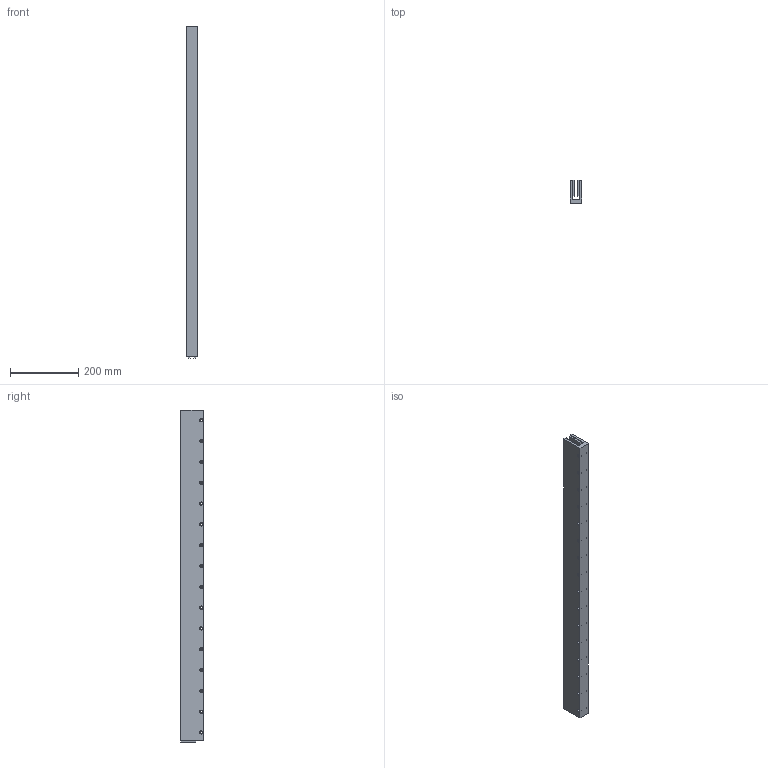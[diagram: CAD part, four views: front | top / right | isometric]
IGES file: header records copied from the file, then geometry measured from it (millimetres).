
Global section: file name: No Iges File Name specified; native system: Autodesk Inventor 2012; preprocessor: AutoDesk Inventor Iges Exporter R2012; author: je17857; date: 20120511.155702; units: inch
Bounding box: 34.29 x 67.31 x 972.71 mm (x, y, z)
Volume: 1441581.5 mm3; surface area: 369301.4 mm2
Topology: 3 solids, 3 shells, 420 faces, 960 edges, 640 vertices
Faces by surface type: plane 372, revolution 48
